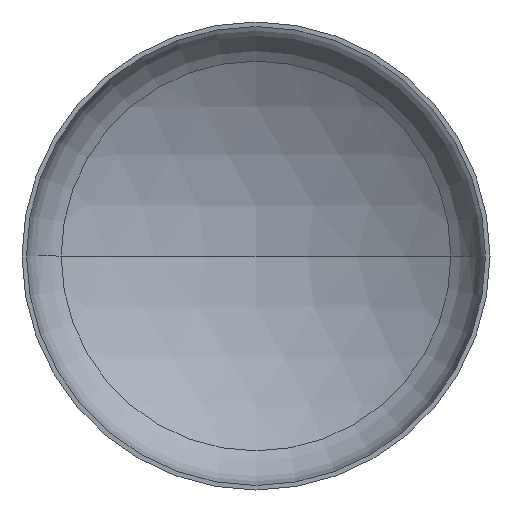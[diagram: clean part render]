
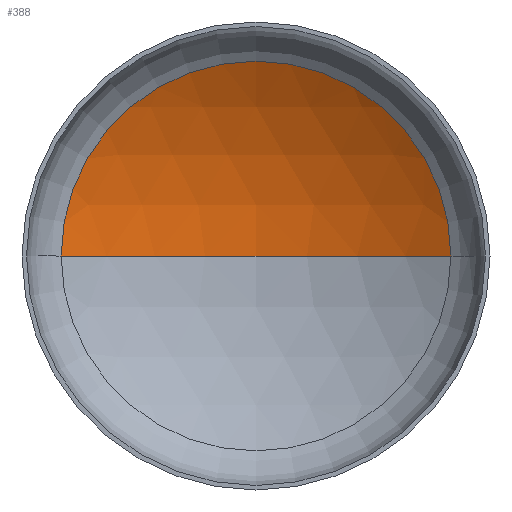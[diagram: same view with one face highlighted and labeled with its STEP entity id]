
A CAD part, front view. The second image highlights one B-rep face of the part: STEP entity #388.
In plain terms, the highlighted spherical face has radius 2880 mm.
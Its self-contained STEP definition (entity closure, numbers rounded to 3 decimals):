
#3 = AXIS2_PLACEMENT_3D ( 'NONE', #278, #329, #100 ) ;
#11 = CARTESIAN_POINT ( 'NONE',  ( 0., 1004.673, 0. ) ) ;
#18 = DIRECTION ( 'NONE',  ( -1., 0., 0. ) ) ;
#20 = DIRECTION ( 'NONE',  ( 0., 0., -1. ) ) ;
#30 = AXIS2_PLACEMENT_3D ( 'NONE', #322, #20, #18 ) ;
#35 = AXIS2_PLACEMENT_3D ( 'NONE', #151, #331, #190 ) ;
#42 = EDGE_LOOP ( 'NONE', ( #124, #99, #47 ) ) ;
#47 = ORIENTED_EDGE ( 'NONE', *, *, #78, .T. ) ;
#74 = VERTEX_POINT ( 'NONE', #194 ) ;
#76 = DIRECTION ( 'NONE',  ( 0., 0., -1. ) ) ;
#78 = EDGE_CURVE ( 'NONE', #129, #74, #319, .T. ) ;
#86 = EDGE_CURVE ( 'NONE', #115, #129, #256, .T. ) ;
#99 = ORIENTED_EDGE ( 'NONE', *, *, #86, .T. ) ;
#100 = DIRECTION ( 'NONE',  ( 1., 0., 0. ) ) ;
#115 = VERTEX_POINT ( 'NONE', #11 ) ;
#118 = SPHERICAL_SURFACE ( 'NONE', #327, 2880. ) ;
#124 = ORIENTED_EDGE ( 'NONE', *, *, #360, .F. ) ;
#129 = VERTEX_POINT ( 'NONE', #286 ) ;
#151 = CARTESIAN_POINT ( 'NONE',  ( 0., 583.917, 0. ) ) ;
#190 = DIRECTION ( 'NONE',  ( 1., 0., 0. ) ) ;
#194 = CARTESIAN_POINT ( 'NONE',  ( -1498.839, 583.917, 0. ) ) ;
#232 = CIRCLE ( 'NONE', #3, 2880. ) ;
#246 = DIRECTION ( 'NONE',  ( -1., 0., 0. ) ) ;
#256 = CIRCLE ( 'NONE', #30, 2880. ) ;
#278 = CARTESIAN_POINT ( 'NONE',  ( 0., -1875.327, 0. ) ) ;
#286 = CARTESIAN_POINT ( 'NONE',  ( 1498.839, 583.917, 0. ) ) ;
#287 = CARTESIAN_POINT ( 'NONE',  ( 0., -1875.327, 0. ) ) ;
#319 = CIRCLE ( 'NONE', #35, 1498.839 ) ;
#322 = CARTESIAN_POINT ( 'NONE',  ( 0., -1875.327, 0. ) ) ;
#327 = AXIS2_PLACEMENT_3D ( 'NONE', #287, #76, #246 ) ;
#329 = DIRECTION ( 'NONE',  ( 0., 0., 1. ) ) ;
#331 = DIRECTION ( 'NONE',  ( 0., -1., 0. ) ) ;
#360 = EDGE_CURVE ( 'NONE', #115, #74, #232, .T. ) ;
#388 = ADVANCED_FACE ( 'NONE', ( #398 ), #118, .F. ) ;
#398 = FACE_OUTER_BOUND ( 'NONE', #42, .T. ) ;
